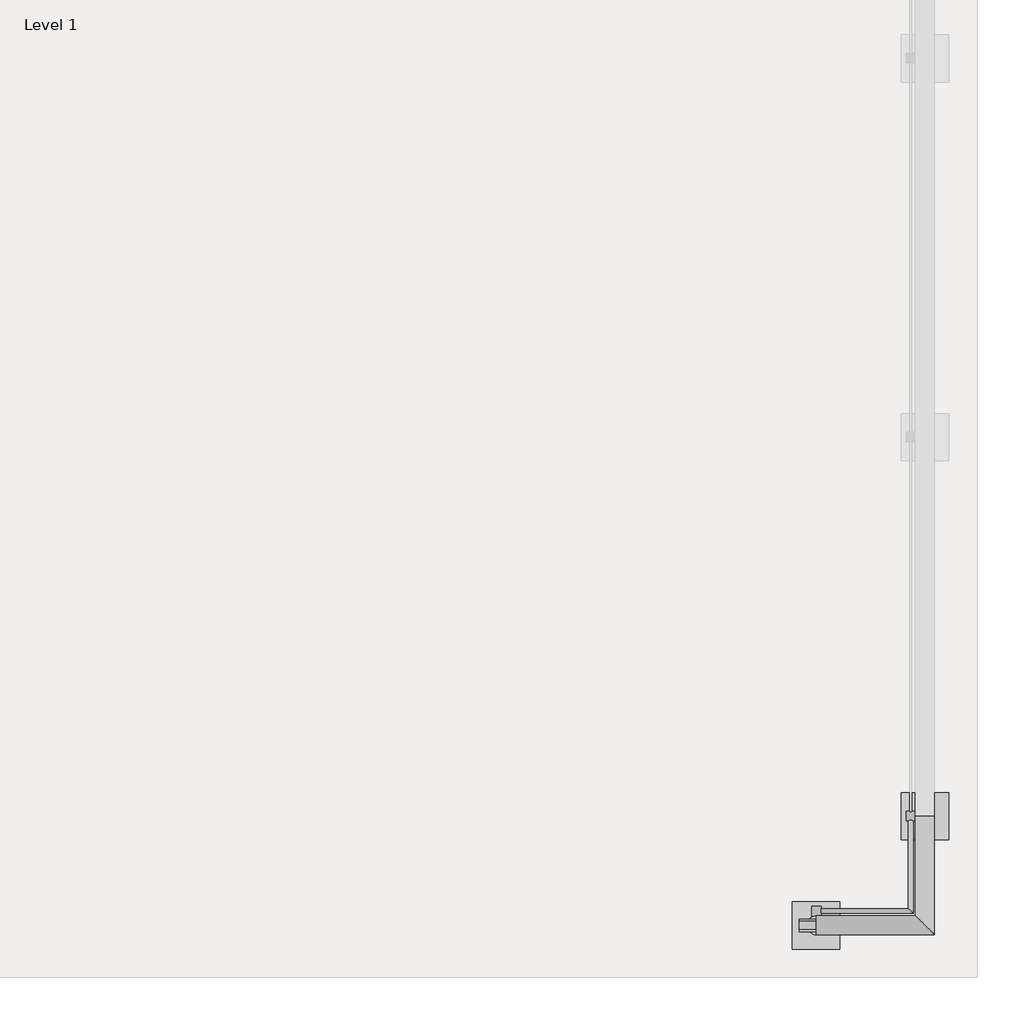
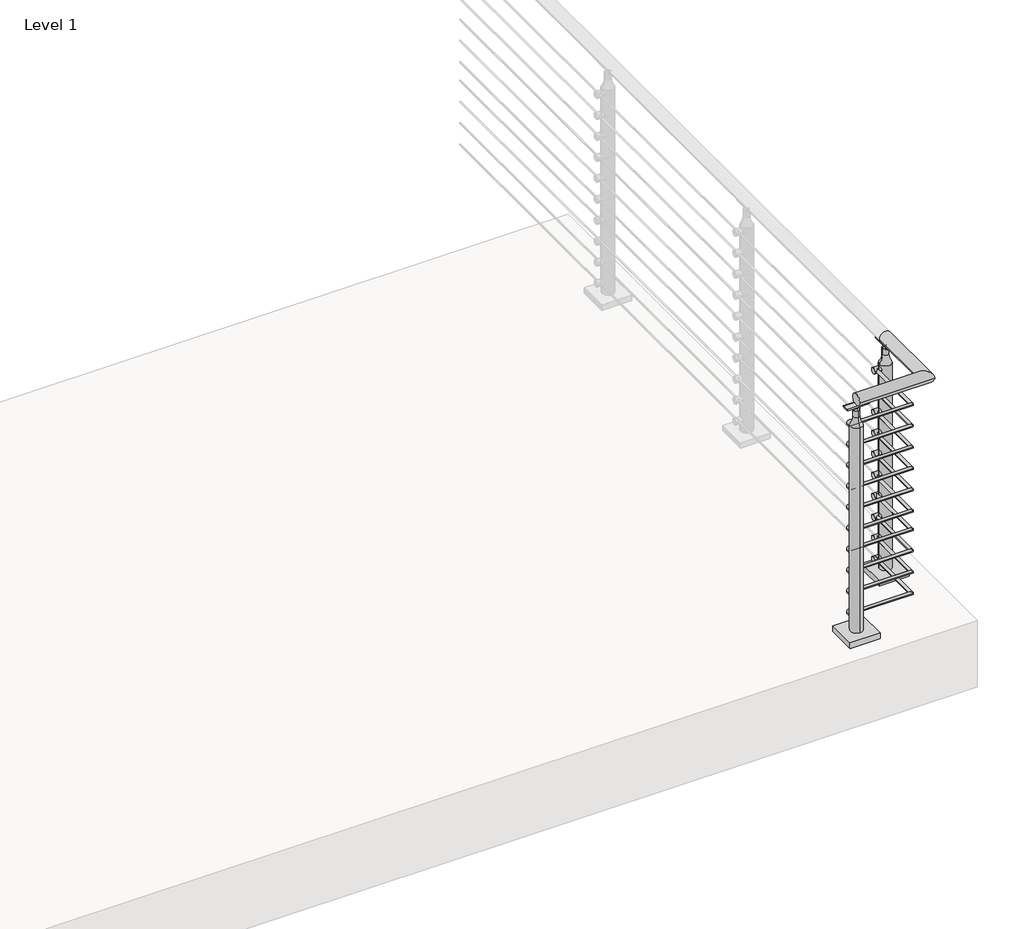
# One storey, part 4 of 21: 1 railing.
"""IFC4 building model written with IfcOpenShell, lengths in millimetres."""

from ifc_helpers import new_model, si_unit, point, frame, frame_2d, origin, origin_with_axes, place, context, project, spatial, polyline, circle_curve, ellipse_curve, trimmed, segment, composite_curve, outline, extrude, element, save
from ifc_brep_helpers import plane_surface, cylinder_surface, revolved_surface, advanced_brep

model = new_model("IFC4")

# Units and contexts
model_context = context("Model", 3, world=origin())
ifc_project = project(units=[si_unit("LENGTHUNIT", "METRE", prefix="MILLI")], contexts=[model_context])

# Site, building, storey
site = spatial("IfcSite", under=ifc_project)
building = spatial("IfcBuilding", under=site)
storey = spatial("IfcBuildingStorey", under=building, Name="Level 1", Elevation=0.0)

# Railing
placement = place(None, origin())
element("IfcRailing", 1, ObjectType="VIVA-CIRCA-Multiline-Cable-Floor Mount-Corner", at=placement, inside=storey, context=model_context, shape_type="SolidModel", body=[
    advanced_brep(
    [(19311.7855247, -73670.2943064, 1054.1), (19311.7855247, -73619.4943064, 1054.1), (19629.2855247, -73670.2943064, 1054.1), (19578.4855247, -73619.4943064, 1054.1), (19629.2855247, -73352.7943064, 1054.1), (19578.4855247, -73352.7943064, 1054.1)],
    [
        (0, 1, circle_curve(frame((19311.7855247, -73644.8943064, 1054.1), z_axis=(-1.0, 0.0, 0.0), x_axis=(0.0, 1.0, 0.0)), 25.4)),
        (1, 0, circle_curve(frame((19311.7855247, -73644.8943064, 1054.1), z_axis=(-1.0, 0.0, 0.0), x_axis=(0.0, 1.0, 0.0)), 25.4)),
        (0, 2),
        (2, 3, ellipse_curve(frame((19603.8855247, -73644.8943064, 1054.1), z_axis=(-0.7071067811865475, -0.7071067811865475, 0.0), x_axis=(-0.7071067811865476, 0.7071067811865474, 0.0)), 35.9210245, 25.4)),
        (3, 1),
        (3, 2, ellipse_curve(frame((19603.8855247, -73644.8943064, 1054.1), z_axis=(-0.7071067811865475, -0.7071067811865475, 0.0), x_axis=(-0.7071067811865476, 0.7071067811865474, 0.0)), 35.9210245, 25.4)),
        (4, 5, circle_curve(frame((19603.8855247, -73352.7943064, 1054.1), z_axis=(0.0, 1.0, 0.0), x_axis=(-1.0, 0.0, 0.0)), 25.4)),
        (5, 4, circle_curve(frame((19603.8855247, -73352.7943064, 1054.1), z_axis=(0.0, 1.0, 0.0), x_axis=(-1.0, 0.0, 0.0)), 25.4)),
        (2, 4),
        (5, 3),
    ],
    [
        plane_surface(frame((19311.7855247, -73644.8943064, 1079.5), z_axis=(-1.0, 0.0, 0.0), x_axis=(0.0, 1.0, 0.0))),
        cylinder_surface(frame((19311.7855247, -73644.8943064, 1054.1), z_axis=(-1.0, 0.0, 0.0), x_axis=(0.0, 1.0, 0.0)), 25.4),
        plane_surface(frame((19603.8855247, -73352.7943064, 1079.5), z_axis=(0.0, 1.0, 0.0), x_axis=(0.0, 0.0, 1.0))),
        cylinder_surface(frame((19603.8855247, -73644.8943064, 1054.1), z_axis=(0.0, -1.0, 0.0), x_axis=(-1.0, 0.0, 0.0)), 25.4),
    ],
    [
        (0, [[1, 2]]),
        (1, [[-1, 3, 4, 5]]),
        (1, [[-2, -5, 6, -3]]),
        (2, [[7, 8]]),
        (3, [[-4, 9, -8, 10]]),
        (3, [[-6, -10, -7, -9]]),
    ],
),
    advanced_brep(
    [(19311.7855247, -73600.4443064, 920.75), (19311.7855247, -73613.1443064, 920.75), (19559.4355247, -73600.4443064, 920.75), (19572.1355247, -73613.1443064, 920.75), (19559.4355247, -73352.7943064, 920.75), (19572.1355247, -73352.7943064, 920.75)],
    [
        (0, 1, circle_curve(frame((19311.7855247, -73606.7943064, 920.75), z_axis=(-1.0, 0.0, 0.0), x_axis=(0.0, -1.0, 0.0)), 6.35)),
        (1, 0, circle_curve(frame((19311.7855247, -73606.7943064, 920.75), z_axis=(-1.0, 0.0, 0.0), x_axis=(0.0, -1.0, 0.0)), 6.35)),
        (0, 2),
        (2, 3, ellipse_curve(frame((19565.7855247, -73606.7943064, 920.75), z_axis=(-0.7071067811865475, -0.7071067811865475, 0.0), x_axis=(-0.7071067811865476, 0.7071067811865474, 0.0)), 8.9802561, 6.35)),
        (3, 1),
        (3, 2, ellipse_curve(frame((19565.7855247, -73606.7943064, 920.75), z_axis=(-0.7071067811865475, -0.7071067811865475, 0.0), x_axis=(-0.7071067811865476, 0.7071067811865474, 0.0)), 8.9802561, 6.35)),
        (4, 5, circle_curve(frame((19565.7855247, -73352.7943064, 920.75), z_axis=(0.0, 1.0, 0.0), x_axis=(1.0, 0.0, 0.0)), 6.35)),
        (5, 4, circle_curve(frame((19565.7855247, -73352.7943064, 920.75), z_axis=(0.0, 1.0, 0.0), x_axis=(1.0, 0.0, 0.0)), 6.35)),
        (2, 4),
        (5, 3),
    ],
    [
        plane_surface(frame((19311.7855247, -73606.7943064, 927.1), z_axis=(-1.0, 0.0, 0.0), x_axis=(0.0, 1.0, 0.0))),
        cylinder_surface(frame((19311.7855247, -73606.7943064, 920.75), z_axis=(-1.0, 0.0, 0.0), x_axis=(0.0, -1.0, 0.0)), 6.35),
        plane_surface(frame((19565.7855247, -73352.7943064, 927.1), z_axis=(0.0, 1.0, 0.0), x_axis=(0.0, 0.0, 1.0))),
        cylinder_surface(frame((19565.7855247, -73606.7943064, 920.75), z_axis=(0.0, -1.0, 0.0), x_axis=(1.0, 0.0, 0.0)), 6.35),
    ],
    [
        (0, [[1, 2]]),
        (1, [[-1, 3, 4, 5]]),
        (1, [[-2, -5, 6, -3]]),
        (2, [[7, 8]]),
        (3, [[-4, 9, -8, 10]]),
        (3, [[-6, -10, -7, -9]]),
    ],
),
    advanced_brep(
    [(19311.7855247, -73600.4443064, 825.5), (19311.7855247, -73613.1443064, 825.5), (19559.4355247, -73600.4443064, 825.5), (19572.1355247, -73613.1443064, 825.5), (19559.4355247, -73352.7943064, 825.5), (19572.1355247, -73352.7943064, 825.5)],
    [
        (0, 1, circle_curve(frame((19311.7855247, -73606.7943064, 825.5), z_axis=(-1.0, 0.0, 0.0), x_axis=(0.0, -1.0, 0.0)), 6.35)),
        (1, 0, circle_curve(frame((19311.7855247, -73606.7943064, 825.5), z_axis=(-1.0, 0.0, 0.0), x_axis=(0.0, -1.0, 0.0)), 6.35)),
        (0, 2),
        (2, 3, ellipse_curve(frame((19565.7855247, -73606.7943064, 825.5), z_axis=(-0.7071067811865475, -0.7071067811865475, 0.0), x_axis=(-0.7071067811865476, 0.7071067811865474, 0.0)), 8.9802561, 6.35)),
        (3, 1),
        (3, 2, ellipse_curve(frame((19565.7855247, -73606.7943064, 825.5), z_axis=(-0.7071067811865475, -0.7071067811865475, 0.0), x_axis=(-0.7071067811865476, 0.7071067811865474, 0.0)), 8.9802561, 6.35)),
        (4, 5, circle_curve(frame((19565.7855247, -73352.7943064, 825.5), z_axis=(0.0, 1.0, 0.0), x_axis=(1.0, 0.0, 0.0)), 6.35)),
        (5, 4, circle_curve(frame((19565.7855247, -73352.7943064, 825.5), z_axis=(0.0, 1.0, 0.0), x_axis=(1.0, 0.0, 0.0)), 6.35)),
        (2, 4),
        (5, 3),
    ],
    [
        plane_surface(frame((19311.7855247, -73606.7943064, 831.85), z_axis=(-1.0, 0.0, 0.0), x_axis=(0.0, 1.0, 0.0))),
        cylinder_surface(frame((19311.7855247, -73606.7943064, 825.5), z_axis=(-1.0, 0.0, 0.0), x_axis=(0.0, -1.0, 0.0)), 6.35),
        plane_surface(frame((19565.7855247, -73352.7943064, 831.85), z_axis=(0.0, 1.0, 0.0), x_axis=(0.0, 0.0, 1.0))),
        cylinder_surface(frame((19565.7855247, -73606.7943064, 825.5), z_axis=(0.0, -1.0, 0.0), x_axis=(1.0, 0.0, 0.0)), 6.35),
    ],
    [
        (0, [[1, 2]]),
        (1, [[-1, 3, 4, 5]]),
        (1, [[-2, -5, 6, -3]]),
        (2, [[7, 8]]),
        (3, [[-4, 9, -8, 10]]),
        (3, [[-6, -10, -7, -9]]),
    ],
),
    advanced_brep(
    [(19311.7855247, -73600.4443064, 730.25), (19311.7855247, -73613.1443064, 730.25), (19559.4355247, -73600.4443064, 730.25), (19572.1355247, -73613.1443064, 730.25), (19559.4355247, -73352.7943064, 730.25), (19572.1355247, -73352.7943064, 730.25)],
    [
        (0, 1, circle_curve(frame((19311.7855247, -73606.7943064, 730.25), z_axis=(-1.0, 0.0, 0.0), x_axis=(0.0, -1.0, 0.0)), 6.35)),
        (1, 0, circle_curve(frame((19311.7855247, -73606.7943064, 730.25), z_axis=(-1.0, 0.0, 0.0), x_axis=(0.0, -1.0, 0.0)), 6.35)),
        (0, 2),
        (2, 3, ellipse_curve(frame((19565.7855247, -73606.7943064, 730.25), z_axis=(-0.7071067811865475, -0.7071067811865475, 0.0), x_axis=(-0.7071067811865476, 0.7071067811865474, 0.0)), 8.9802561, 6.35)),
        (3, 1),
        (3, 2, ellipse_curve(frame((19565.7855247, -73606.7943064, 730.25), z_axis=(-0.7071067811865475, -0.7071067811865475, 0.0), x_axis=(-0.7071067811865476, 0.7071067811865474, 0.0)), 8.9802561, 6.35)),
        (4, 5, circle_curve(frame((19565.7855247, -73352.7943064, 730.25), z_axis=(0.0, 1.0, 0.0), x_axis=(1.0, 0.0, 0.0)), 6.35)),
        (5, 4, circle_curve(frame((19565.7855247, -73352.7943064, 730.25), z_axis=(0.0, 1.0, 0.0), x_axis=(1.0, 0.0, 0.0)), 6.35)),
        (2, 4),
        (5, 3),
    ],
    [
        plane_surface(frame((19311.7855247, -73606.7943064, 736.6), z_axis=(-1.0, 0.0, 0.0), x_axis=(0.0, 1.0, 0.0))),
        cylinder_surface(frame((19311.7855247, -73606.7943064, 730.25), z_axis=(-1.0, 0.0, 0.0), x_axis=(0.0, -1.0, 0.0)), 6.35),
        plane_surface(frame((19565.7855247, -73352.7943064, 736.6), z_axis=(0.0, 1.0, 0.0), x_axis=(0.0, 0.0, 1.0))),
        cylinder_surface(frame((19565.7855247, -73606.7943064, 730.25), z_axis=(0.0, -1.0, 0.0), x_axis=(1.0, 0.0, 0.0)), 6.35),
    ],
    [
        (0, [[1, 2]]),
        (1, [[-1, 3, 4, 5]]),
        (1, [[-2, -5, 6, -3]]),
        (2, [[7, 8]]),
        (3, [[-4, 9, -8, 10]]),
        (3, [[-6, -10, -7, -9]]),
    ],
),
    advanced_brep(
    [(19311.7855247, -73600.4443064, 635.0), (19311.7855247, -73613.1443064, 635.0), (19559.4355247, -73600.4443064, 635.0), (19572.1355247, -73613.1443064, 635.0), (19559.4355247, -73352.7943064, 635.0), (19572.1355247, -73352.7943064, 635.0)],
    [
        (0, 1, circle_curve(frame((19311.7855247, -73606.7943064, 635.0), z_axis=(-1.0, 0.0, 0.0), x_axis=(0.0, -1.0, 0.0)), 6.35)),
        (1, 0, circle_curve(frame((19311.7855247, -73606.7943064, 635.0), z_axis=(-1.0, 0.0, 0.0), x_axis=(0.0, -1.0, 0.0)), 6.35)),
        (0, 2),
        (2, 3, ellipse_curve(frame((19565.7855247, -73606.7943064, 635.0), z_axis=(-0.7071067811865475, -0.7071067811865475, 0.0), x_axis=(-0.7071067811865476, 0.7071067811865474, 0.0)), 8.9802561, 6.35)),
        (3, 1),
        (3, 2, ellipse_curve(frame((19565.7855247, -73606.7943064, 635.0), z_axis=(-0.7071067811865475, -0.7071067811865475, 0.0), x_axis=(-0.7071067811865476, 0.7071067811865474, 0.0)), 8.9802561, 6.35)),
        (4, 5, circle_curve(frame((19565.7855247, -73352.7943064, 635.0), z_axis=(0.0, 1.0, 0.0), x_axis=(1.0, 0.0, 0.0)), 6.35)),
        (5, 4, circle_curve(frame((19565.7855247, -73352.7943064, 635.0), z_axis=(0.0, 1.0, 0.0), x_axis=(1.0, 0.0, 0.0)), 6.35)),
        (2, 4),
        (5, 3),
    ],
    [
        plane_surface(frame((19311.7855247, -73606.7943064, 641.35), z_axis=(-1.0, 0.0, 0.0), x_axis=(0.0, 1.0, 0.0))),
        cylinder_surface(frame((19311.7855247, -73606.7943064, 635.0), z_axis=(-1.0, 0.0, 0.0), x_axis=(0.0, -1.0, 0.0)), 6.35),
        plane_surface(frame((19565.7855247, -73352.7943064, 641.35), z_axis=(0.0, 1.0, 0.0), x_axis=(0.0, 0.0, 1.0))),
        cylinder_surface(frame((19565.7855247, -73606.7943064, 635.0), z_axis=(0.0, -1.0, 0.0), x_axis=(1.0, 0.0, 0.0)), 6.35),
    ],
    [
        (0, [[1, 2]]),
        (1, [[-1, 3, 4, 5]]),
        (1, [[-2, -5, 6, -3]]),
        (2, [[7, 8]]),
        (3, [[-4, 9, -8, 10]]),
        (3, [[-6, -10, -7, -9]]),
    ],
),
    advanced_brep(
    [(19311.7855247, -73600.4443064, 539.75), (19311.7855247, -73613.1443064, 539.75), (19559.4355247, -73600.4443064, 539.75), (19572.1355247, -73613.1443064, 539.75), (19559.4355247, -73352.7943064, 539.75), (19572.1355247, -73352.7943064, 539.75)],
    [
        (0, 1, circle_curve(frame((19311.7855247, -73606.7943064, 539.75), z_axis=(-1.0, 0.0, 0.0), x_axis=(0.0, -1.0, 0.0)), 6.35)),
        (1, 0, circle_curve(frame((19311.7855247, -73606.7943064, 539.75), z_axis=(-1.0, 0.0, 0.0), x_axis=(0.0, -1.0, 0.0)), 6.35)),
        (0, 2),
        (2, 3, ellipse_curve(frame((19565.7855247, -73606.7943064, 539.75), z_axis=(-0.7071067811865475, -0.7071067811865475, 0.0), x_axis=(-0.7071067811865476, 0.7071067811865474, 0.0)), 8.9802561, 6.35)),
        (3, 1),
        (3, 2, ellipse_curve(frame((19565.7855247, -73606.7943064, 539.75), z_axis=(-0.7071067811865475, -0.7071067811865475, 0.0), x_axis=(-0.7071067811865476, 0.7071067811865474, 0.0)), 8.9802561, 6.35)),
        (4, 5, circle_curve(frame((19565.7855247, -73352.7943064, 539.75), z_axis=(0.0, 1.0, 0.0), x_axis=(1.0, 0.0, 0.0)), 6.35)),
        (5, 4, circle_curve(frame((19565.7855247, -73352.7943064, 539.75), z_axis=(0.0, 1.0, 0.0), x_axis=(1.0, 0.0, 0.0)), 6.35)),
        (2, 4),
        (5, 3),
    ],
    [
        plane_surface(frame((19311.7855247, -73606.7943064, 546.1), z_axis=(-1.0, 0.0, 0.0), x_axis=(0.0, 1.0, 0.0))),
        cylinder_surface(frame((19311.7855247, -73606.7943064, 539.75), z_axis=(-1.0, 0.0, 0.0), x_axis=(0.0, -1.0, 0.0)), 6.35),
        plane_surface(frame((19565.7855247, -73352.7943064, 546.1), z_axis=(0.0, 1.0, 0.0), x_axis=(0.0, 0.0, 1.0))),
        cylinder_surface(frame((19565.7855247, -73606.7943064, 539.75), z_axis=(0.0, -1.0, 0.0), x_axis=(1.0, 0.0, 0.0)), 6.35),
    ],
    [
        (0, [[1, 2]]),
        (1, [[-1, 3, 4, 5]]),
        (1, [[-2, -5, 6, -3]]),
        (2, [[7, 8]]),
        (3, [[-4, 9, -8, 10]]),
        (3, [[-6, -10, -7, -9]]),
    ],
),
    advanced_brep(
    [(19311.7855247, -73600.4443064, 444.5), (19311.7855247, -73613.1443064, 444.5), (19559.4355247, -73600.4443064, 444.5), (19572.1355247, -73613.1443064, 444.5), (19559.4355247, -73352.7943064, 444.5), (19572.1355247, -73352.7943064, 444.5)],
    [
        (0, 1, circle_curve(frame((19311.7855247, -73606.7943064, 444.5), z_axis=(-1.0, 0.0, 0.0), x_axis=(0.0, -1.0, 0.0)), 6.35)),
        (1, 0, circle_curve(frame((19311.7855247, -73606.7943064, 444.5), z_axis=(-1.0, 0.0, 0.0), x_axis=(0.0, -1.0, 0.0)), 6.35)),
        (0, 2),
        (2, 3, ellipse_curve(frame((19565.7855247, -73606.7943064, 444.5), z_axis=(-0.7071067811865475, -0.7071067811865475, 0.0), x_axis=(-0.7071067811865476, 0.7071067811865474, 0.0)), 8.9802561, 6.35)),
        (3, 1),
        (3, 2, ellipse_curve(frame((19565.7855247, -73606.7943064, 444.5), z_axis=(-0.7071067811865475, -0.7071067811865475, 0.0), x_axis=(-0.7071067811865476, 0.7071067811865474, 0.0)), 8.9802561, 6.35)),
        (4, 5, circle_curve(frame((19565.7855247, -73352.7943064, 444.5), z_axis=(0.0, 1.0, 0.0), x_axis=(1.0, 0.0, 0.0)), 6.35)),
        (5, 4, circle_curve(frame((19565.7855247, -73352.7943064, 444.5), z_axis=(0.0, 1.0, 0.0), x_axis=(1.0, 0.0, 0.0)), 6.35)),
        (2, 4),
        (5, 3),
    ],
    [
        plane_surface(frame((19311.7855247, -73606.7943064, 450.85), z_axis=(-1.0, 0.0, 0.0), x_axis=(0.0, 1.0, 0.0))),
        cylinder_surface(frame((19311.7855247, -73606.7943064, 444.5), z_axis=(-1.0, 0.0, 0.0), x_axis=(0.0, -1.0, 0.0)), 6.35),
        plane_surface(frame((19565.7855247, -73352.7943064, 450.85), z_axis=(0.0, 1.0, 0.0), x_axis=(0.0, 0.0, 1.0))),
        cylinder_surface(frame((19565.7855247, -73606.7943064, 444.5), z_axis=(0.0, -1.0, 0.0), x_axis=(1.0, 0.0, 0.0)), 6.35),
    ],
    [
        (0, [[1, 2]]),
        (1, [[-1, 3, 4, 5]]),
        (1, [[-2, -5, 6, -3]]),
        (2, [[7, 8]]),
        (3, [[-4, 9, -8, 10]]),
        (3, [[-6, -10, -7, -9]]),
    ],
),
    advanced_brep(
    [(19311.7855247, -73600.4443064, 361.95), (19311.7855247, -73613.1443064, 361.95), (19559.4355247, -73600.4443064, 361.95), (19572.1355247, -73613.1443064, 361.95), (19559.4355247, -73352.7943064, 361.95), (19572.1355247, -73352.7943064, 361.95)],
    [
        (0, 1, circle_curve(frame((19311.7855247, -73606.7943064, 361.95), z_axis=(-1.0, 0.0, 0.0), x_axis=(0.0, -1.0, 0.0)), 6.35)),
        (1, 0, circle_curve(frame((19311.7855247, -73606.7943064, 361.95), z_axis=(-1.0, 0.0, 0.0), x_axis=(0.0, -1.0, 0.0)), 6.35)),
        (0, 2),
        (2, 3, ellipse_curve(frame((19565.7855247, -73606.7943064, 361.95), z_axis=(-0.7071067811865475, -0.7071067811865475, 0.0), x_axis=(-0.7071067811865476, 0.7071067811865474, 0.0)), 8.9802561, 6.35)),
        (3, 1),
        (3, 2, ellipse_curve(frame((19565.7855247, -73606.7943064, 361.95), z_axis=(-0.7071067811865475, -0.7071067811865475, 0.0), x_axis=(-0.7071067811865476, 0.7071067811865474, 0.0)), 8.9802561, 6.35)),
        (4, 5, circle_curve(frame((19565.7855247, -73352.7943064, 361.95), z_axis=(0.0, 1.0, 0.0), x_axis=(1.0, 0.0, 0.0)), 6.35)),
        (5, 4, circle_curve(frame((19565.7855247, -73352.7943064, 361.95), z_axis=(0.0, 1.0, 0.0), x_axis=(1.0, 0.0, 0.0)), 6.35)),
        (2, 4),
        (5, 3),
    ],
    [
        plane_surface(frame((19311.7855247, -73606.7943064, 368.3), z_axis=(-1.0, 0.0, 0.0), x_axis=(0.0, 1.0, 0.0))),
        cylinder_surface(frame((19311.7855247, -73606.7943064, 361.95), z_axis=(-1.0, 0.0, 0.0), x_axis=(0.0, -1.0, 0.0)), 6.35),
        plane_surface(frame((19565.7855247, -73352.7943064, 368.3), z_axis=(0.0, 1.0, 0.0), x_axis=(0.0, 0.0, 1.0))),
        cylinder_surface(frame((19565.7855247, -73606.7943064, 361.95), z_axis=(0.0, -1.0, 0.0), x_axis=(1.0, 0.0, 0.0)), 6.35),
    ],
    [
        (0, [[1, 2]]),
        (1, [[-1, 3, 4, 5]]),
        (1, [[-2, -5, 6, -3]]),
        (2, [[7, 8]]),
        (3, [[-4, 9, -8, 10]]),
        (3, [[-6, -10, -7, -9]]),
    ],
),
    advanced_brep(
    [(19311.7855247, -73600.4443064, 266.7), (19311.7855247, -73613.1443064, 266.7), (19559.4355247, -73600.4443064, 266.7), (19572.1355247, -73613.1443064, 266.7), (19559.4355247, -73352.7943064, 266.7), (19572.1355247, -73352.7943064, 266.7)],
    [
        (0, 1, circle_curve(frame((19311.7855247, -73606.7943064, 266.7), z_axis=(-1.0, 0.0, 0.0), x_axis=(0.0, -1.0, 0.0)), 6.35)),
        (1, 0, circle_curve(frame((19311.7855247, -73606.7943064, 266.7), z_axis=(-1.0, 0.0, 0.0), x_axis=(0.0, -1.0, 0.0)), 6.35)),
        (0, 2),
        (2, 3, ellipse_curve(frame((19565.7855247, -73606.7943064, 266.7), z_axis=(-0.7071067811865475, -0.7071067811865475, 0.0), x_axis=(-0.7071067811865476, 0.7071067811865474, 0.0)), 8.9802561, 6.35)),
        (3, 1),
        (3, 2, ellipse_curve(frame((19565.7855247, -73606.7943064, 266.7), z_axis=(-0.7071067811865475, -0.7071067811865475, 0.0), x_axis=(-0.7071067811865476, 0.7071067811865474, 0.0)), 8.9802561, 6.35)),
        (4, 5, circle_curve(frame((19565.7855247, -73352.7943064, 266.7), z_axis=(0.0, 1.0, 0.0), x_axis=(1.0, 0.0, 0.0)), 6.35)),
        (5, 4, circle_curve(frame((19565.7855247, -73352.7943064, 266.7), z_axis=(0.0, 1.0, 0.0), x_axis=(1.0, 0.0, 0.0)), 6.35)),
        (2, 4),
        (5, 3),
    ],
    [
        plane_surface(frame((19311.7855247, -73606.7943064, 273.05), z_axis=(-1.0, 0.0, 0.0), x_axis=(0.0, 1.0, 0.0))),
        cylinder_surface(frame((19311.7855247, -73606.7943064, 266.7), z_axis=(-1.0, 0.0, 0.0), x_axis=(0.0, -1.0, 0.0)), 6.35),
        plane_surface(frame((19565.7855247, -73352.7943064, 273.05), z_axis=(0.0, 1.0, 0.0), x_axis=(0.0, 0.0, 1.0))),
        cylinder_surface(frame((19565.7855247, -73606.7943064, 266.7), z_axis=(0.0, -1.0, 0.0), x_axis=(1.0, 0.0, 0.0)), 6.35),
    ],
    [
        (0, [[1, 2]]),
        (1, [[-1, 3, 4, 5]]),
        (1, [[-2, -5, 6, -3]]),
        (2, [[7, 8]]),
        (3, [[-4, 9, -8, 10]]),
        (3, [[-6, -10, -7, -9]]),
    ],
),
    advanced_brep(
    [(19311.7855247, -73600.4443064, 171.45), (19311.7855247, -73613.1443064, 171.45), (19559.4355247, -73600.4443064, 171.45), (19572.1355247, -73613.1443064, 171.45), (19559.4355247, -73352.7943064, 171.45), (19572.1355247, -73352.7943064, 171.45)],
    [
        (0, 1, circle_curve(frame((19311.7855247, -73606.7943064, 171.45), z_axis=(-1.0, 0.0, 0.0), x_axis=(0.0, -1.0, 0.0)), 6.35)),
        (1, 0, circle_curve(frame((19311.7855247, -73606.7943064, 171.45), z_axis=(-1.0, 0.0, 0.0), x_axis=(0.0, -1.0, 0.0)), 6.35)),
        (0, 2),
        (2, 3, ellipse_curve(frame((19565.7855247, -73606.7943064, 171.45), z_axis=(-0.7071067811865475, -0.7071067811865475, 0.0), x_axis=(-0.7071067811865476, 0.7071067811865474, 0.0)), 8.9802561, 6.35)),
        (3, 1),
        (3, 2, ellipse_curve(frame((19565.7855247, -73606.7943064, 171.45), z_axis=(-0.7071067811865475, -0.7071067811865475, 0.0), x_axis=(-0.7071067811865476, 0.7071067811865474, 0.0)), 8.9802561, 6.35)),
        (4, 5, circle_curve(frame((19565.7855247, -73352.7943064, 171.45), z_axis=(0.0, 1.0, 0.0), x_axis=(1.0, 0.0, 0.0)), 6.35)),
        (5, 4, circle_curve(frame((19565.7855247, -73352.7943064, 171.45), z_axis=(0.0, 1.0, 0.0), x_axis=(1.0, 0.0, 0.0)), 6.35)),
        (2, 4),
        (5, 3),
    ],
    [
        plane_surface(frame((19311.7855247, -73606.7943064, 177.8), z_axis=(-1.0, 0.0, 0.0), x_axis=(0.0, 1.0, 0.0))),
        cylinder_surface(frame((19311.7855247, -73606.7943064, 171.45), z_axis=(-1.0, 0.0, 0.0), x_axis=(0.0, -1.0, 0.0)), 6.35),
        plane_surface(frame((19565.7855247, -73352.7943064, 177.8), z_axis=(0.0, 1.0, 0.0), x_axis=(0.0, 0.0, 1.0))),
        cylinder_surface(frame((19565.7855247, -73606.7943064, 171.45), z_axis=(0.0, -1.0, 0.0), x_axis=(1.0, 0.0, 0.0)), 6.35),
    ],
    [
        (0, [[1, 2]]),
        (1, [[-1, 3, 4, 5]]),
        (1, [[-2, -5, 6, -3]]),
        (2, [[7, 8]]),
        (3, [[-4, 9, -8, 10]]),
        (3, [[-6, -10, -7, -9]]),
    ],
),
    advanced_brep(
    [(19311.7855247, -73600.4443064, 76.2), (19311.7855247, -73613.1443064, 76.2), (19559.4355247, -73600.4443064, 76.2), (19572.1355247, -73613.1443064, 76.2), (19559.4355247, -73352.7943064, 76.2), (19572.1355247, -73352.7943064, 76.2)],
    [
        (0, 1, circle_curve(frame((19311.7855247, -73606.7943064, 76.2), z_axis=(-1.0, 0.0, 0.0), x_axis=(0.0, -1.0, 0.0)), 6.35)),
        (1, 0, circle_curve(frame((19311.7855247, -73606.7943064, 76.2), z_axis=(-1.0, 0.0, 0.0), x_axis=(0.0, -1.0, 0.0)), 6.35)),
        (0, 2),
        (2, 3, ellipse_curve(frame((19565.7855247, -73606.7943064, 76.2), z_axis=(-0.7071067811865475, -0.7071067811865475, 0.0), x_axis=(-0.7071067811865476, 0.7071067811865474, 0.0)), 8.9802561, 6.35)),
        (3, 1),
        (3, 2, ellipse_curve(frame((19565.7855247, -73606.7943064, 76.2), z_axis=(-0.7071067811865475, -0.7071067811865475, 0.0), x_axis=(-0.7071067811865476, 0.7071067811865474, 0.0)), 8.9802561, 6.35)),
        (4, 5, circle_curve(frame((19565.7855247, -73352.7943064, 76.2), z_axis=(0.0, 1.0, 0.0), x_axis=(1.0, 0.0, 0.0)), 6.35)),
        (5, 4, circle_curve(frame((19565.7855247, -73352.7943064, 76.2), z_axis=(0.0, 1.0, 0.0), x_axis=(1.0, 0.0, 0.0)), 6.35)),
        (2, 4),
        (5, 3),
    ],
    [
        plane_surface(frame((19311.7855247, -73606.7943064, 82.55), z_axis=(-1.0, 0.0, 0.0), x_axis=(0.0, 1.0, 0.0))),
        cylinder_surface(frame((19311.7855247, -73606.7943064, 76.2), z_axis=(-1.0, 0.0, 0.0), x_axis=(0.0, -1.0, 0.0)), 6.35),
        plane_surface(frame((19565.7855247, -73352.7943064, 82.55), z_axis=(0.0, 1.0, 0.0), x_axis=(0.0, 0.0, 1.0))),
        cylinder_surface(frame((19565.7855247, -73606.7943064, 76.2), z_axis=(0.0, -1.0, 0.0), x_axis=(1.0, 0.0, 0.0)), 6.35),
    ],
    [
        (0, [[1, 2]]),
        (1, [[-1, 3, 4, 5]]),
        (1, [[-2, -5, 6, -3]]),
        (2, [[7, 8]]),
        (3, [[-4, 9, -8, 10]]),
        (3, [[-6, -10, -7, -9]]),
    ],
),
    extrude(outline(composite_curve([segment(trimmed(circle_curve(frame_2d((-73352.0005564, 76.2)), 12.666458), [point((-73339.3340985, 76.2))], [point((-73364.6670144, 76.2))], False, "CARTESIAN"), True, "CONTINUOUS"), segment(trimmed(circle_curve(frame_2d((-73352.0005564, 76.2)), 12.666458), [point((-73364.6670144, 76.2))], [point((-73339.3340985, 76.2))], False, "CARTESIAN"), True, "CONTINUOUS")], self_intersect=False)), frame((19553.0855247, 0.0, 0.0), z_axis=(1.0, 0.0, 0.0), x_axis=(0.0, 1.0, 0.0)), (0.0, 0.0, 1.0), 50.8),
    extrude(outline(composite_curve([segment(trimmed(circle_curve(frame_2d((-73352.0005564, 170.0388889)), 12.666458), [point((-73339.3340985, 170.0388889))], [point((-73364.6670144, 170.0388889))], False, "CARTESIAN"), True, "CONTINUOUS"), segment(trimmed(circle_curve(frame_2d((-73352.0005564, 170.0388889)), 12.666458), [point((-73364.6670144, 170.0388889))], [point((-73339.3340985, 170.0388889))], False, "CARTESIAN"), True, "CONTINUOUS")], self_intersect=False)), frame((19553.0855247, 0.0, 0.0), z_axis=(1.0, 0.0, 0.0), x_axis=(0.0, 1.0, 0.0)), (0.0, 0.0, 1.0), 50.8),
    extrude(outline(composite_curve([segment(trimmed(circle_curve(frame_2d((-73352.0005564, 263.8777778)), 12.666458), [point((-73339.3340985, 263.8777778))], [point((-73364.6670144, 263.8777778))], False, "CARTESIAN"), True, "CONTINUOUS"), segment(trimmed(circle_curve(frame_2d((-73352.0005564, 263.8777778)), 12.666458), [point((-73364.6670144, 263.8777778))], [point((-73339.3340985, 263.8777778))], False, "CARTESIAN"), True, "CONTINUOUS")], self_intersect=False)), frame((19553.0855247, 0.0, 0.0), z_axis=(1.0, 0.0, 0.0), x_axis=(0.0, 1.0, 0.0)), (0.0, 0.0, 1.0), 50.8),
    extrude(outline(composite_curve([segment(trimmed(circle_curve(frame_2d((-73352.0005564, 357.7166667)), 12.666458), [point((-73339.3340985, 357.7166667))], [point((-73364.6670144, 357.7166667))], False, "CARTESIAN"), True, "CONTINUOUS"), segment(trimmed(circle_curve(frame_2d((-73352.0005564, 357.7166667)), 12.666458), [point((-73364.6670144, 357.7166667))], [point((-73339.3340985, 357.7166667))], False, "CARTESIAN"), True, "CONTINUOUS")], self_intersect=False)), frame((19553.0855247, 0.0, 0.0), z_axis=(1.0, 0.0, 0.0), x_axis=(0.0, 1.0, 0.0)), (0.0, 0.0, 1.0), 50.8),
    extrude(outline(composite_curve([segment(trimmed(circle_curve(frame_2d((-73352.0005564, 451.5555556)), 12.666458), [point((-73339.3340985, 451.5555556))], [point((-73364.6670144, 451.5555556))], False, "CARTESIAN"), True, "CONTINUOUS"), segment(trimmed(circle_curve(frame_2d((-73352.0005564, 451.5555556)), 12.666458), [point((-73364.6670144, 451.5555556))], [point((-73339.3340985, 451.5555556))], False, "CARTESIAN"), True, "CONTINUOUS")], self_intersect=False)), frame((19553.0855247, 0.0, 0.0), z_axis=(1.0, 0.0, 0.0), x_axis=(0.0, 1.0, 0.0)), (0.0, 0.0, 1.0), 50.8),
    extrude(outline(composite_curve([segment(trimmed(circle_curve(frame_2d((-73352.0005564, 545.3944444)), 12.666458), [point((-73339.3340985, 545.3944444))], [point((-73364.6670144, 545.3944444))], False, "CARTESIAN"), True, "CONTINUOUS"), segment(trimmed(circle_curve(frame_2d((-73352.0005564, 545.3944444)), 12.666458), [point((-73364.6670144, 545.3944444))], [point((-73339.3340985, 545.3944444))], False, "CARTESIAN"), True, "CONTINUOUS")], self_intersect=False)), frame((19553.0855247, 0.0, 0.0), z_axis=(1.0, 0.0, 0.0), x_axis=(0.0, 1.0, 0.0)), (0.0, 0.0, 1.0), 50.8),
    extrude(outline(composite_curve([segment(trimmed(circle_curve(frame_2d((-73352.0005564, 639.2333333)), 12.666458), [point((-73339.3340985, 639.2333333))], [point((-73364.6670144, 639.2333333))], False, "CARTESIAN"), True, "CONTINUOUS"), segment(trimmed(circle_curve(frame_2d((-73352.0005564, 639.2333333)), 12.666458), [point((-73364.6670144, 639.2333333))], [point((-73339.3340985, 639.2333333))], False, "CARTESIAN"), True, "CONTINUOUS")], self_intersect=False)), frame((19553.0855247, 0.0, 0.0), z_axis=(1.0, 0.0, 0.0), x_axis=(0.0, 1.0, 0.0)), (0.0, 0.0, 1.0), 50.8),
    extrude(outline(composite_curve([segment(trimmed(circle_curve(frame_2d((-73352.0005564, 733.0722222)), 12.666458), [point((-73339.3340985, 733.0722222))], [point((-73364.6670144, 733.0722222))], False, "CARTESIAN"), True, "CONTINUOUS"), segment(trimmed(circle_curve(frame_2d((-73352.0005564, 733.0722222)), 12.666458), [point((-73364.6670144, 733.0722222))], [point((-73339.3340985, 733.0722222))], False, "CARTESIAN"), True, "CONTINUOUS")], self_intersect=False)), frame((19553.0855247, 0.0, 0.0), z_axis=(1.0, 0.0, 0.0), x_axis=(0.0, 1.0, 0.0)), (0.0, 0.0, 1.0), 50.8),
    extrude(outline(composite_curve([segment(trimmed(circle_curve(frame_2d((-73352.0005564, 920.75)), 12.666458), [point((-73339.3340985, 920.75))], [point((-73364.6670144, 920.75))], False, "CARTESIAN"), True, "CONTINUOUS"), segment(trimmed(circle_curve(frame_2d((-73352.0005564, 920.75)), 12.666458), [point((-73364.6670144, 920.75))], [point((-73339.3340985, 920.75))], False, "CARTESIAN"), True, "CONTINUOUS")], self_intersect=False)), frame((19553.0855247, 0.0, 0.0), z_axis=(1.0, 0.0, 0.0), x_axis=(0.0, 1.0, 0.0)), (0.0, 0.0, 1.0), 50.8),
    extrude(outline(composite_curve([segment(trimmed(circle_curve(frame_2d((-73352.0005564, 826.9111111)), 12.666458), [point((-73339.3340985, 826.9111111))], [point((-73364.6670144, 826.9111111))], False, "CARTESIAN"), True, "CONTINUOUS"), segment(trimmed(circle_curve(frame_2d((-73352.0005564, 826.9111111)), 12.666458), [point((-73364.6670144, 826.9111111))], [point((-73339.3340985, 826.9111111))], False, "CARTESIAN"), True, "CONTINUOUS")], self_intersect=False)), frame((19553.0855247, 0.0, 0.0), z_axis=(1.0, 0.0, 0.0), x_axis=(0.0, 1.0, 0.0)), (0.0, 0.0, 1.0), 50.8),
    extrude(outline(composite_curve([segment(trimmed(circle_curve(frame_2d((1055.4254922, 19603.7887963)), 25.4345159), [point((1033.3106679, 19616.3525992))], [point((1033.2157471, 19591.3935626))], True, "CARTESIAN"), True, "CONTINUOUS"), segment(trimmed(circle_curve(frame_2d((1030.7132623, 19590.1489094)), 2.7949225), [point((1033.2157471, 19591.3935626))], [point((1028.3406769, 19588.6716044))], False, "CARTESIAN"), True, "CONTINUOUS"), segment(trimmed(circle_curve(frame_2d((1056.1881188, 19603.9222594)), 31.75), [point((1028.3406769, 19588.6716044))], [point((1028.9214354, 19620.1884966))], False, "CARTESIAN"), True, "CONTINUOUS"), segment(trimmed(circle_curve(frame_2d((1030.7923545, 19617.9001569)), 2.9558141), [point((1028.9214354, 19620.1884966))], [point((1033.3106679, 19616.3525992))], False, "CARTESIAN"), True, "CONTINUOUS")], self_intersect=False)), frame((0.0, -73397.6348314, 0.0), z_axis=(0.0, 1.0, 0.0), x_axis=(0.0, 0.0, 1.0)), (0.0, 0.0, 1.0), 90.4748),
    extrude(outline(composite_curve([segment(trimmed(circle_curve(frame_2d((-73325.3295165, 1010.282776)), 14.3679149), [point((-73325.3295165, 1024.6506908))], [point((-73339.6974314, 1010.282776))], True, "CARTESIAN"), True, "CONTINUOUS"), segment(trimmed(circle_curve(frame_2d((-73352.3974314, 1010.282776)), 12.7), [point((-73339.6974314, 1010.282776))], [point((-73365.0974314, 1010.282776))], False, "CARTESIAN"), True, "CONTINUOUS"), segment(trimmed(circle_curve(frame_2d((-73379.4653463, 1010.282776)), 14.3679149), [point((-73365.0974314, 1010.282776))], [point((-73379.4653463, 1024.6506908))], True, "CARTESIAN"), True, "CONTINUOUS"), segment(polyline([(-73379.4653463, 1024.6506908), (-73325.3295165, 1024.6506908)]), True, "CONTINUOUS")], self_intersect=False)), frame((19601.3455247, 0.0, 0.0), z_axis=(1.0, 0.0, 0.0), x_axis=(0.0, 1.0, 0.0)), (0.0, 0.0, 1.0), 5.08),
    extrude(outline(polyline([(19667.3855247, -73415.8974314), (19540.3855247, -73415.8974314), (19540.3855247, -73288.8974314), (19667.3855247, -73288.8974314), (19667.3855247, -73415.8974314)])), origin_with_axes(), (0.0, 0.0, 1.0), 25.4),
    advanced_brep(
    [(19629.2849225, -73352.3974314, 941.1347854), (19578.4861269, -73352.3974314, 941.1347854), (19578.4861269, -73352.3974314, 25.4), (19629.2849225, -73352.3974314, 25.4), (19616.6234932, -73352.3974314, 979.3486202), (19591.1475562, -73352.3974314, 979.3486202), (19616.6234932, -73352.3974314, 1008.5779599), (19591.1475562, -73352.3974314, 1008.5779599), (19603.8855247, -73352.3974314, 1015.238668), (19603.8855247, -73352.3974314, 25.4)],
    [
        (0, 1, circle_curve(frame((19603.8855247, -73352.3974314, 941.1347854), z_axis=(0.0, 0.0, -1.0), x_axis=(-1.0, 0.0, 0.0)), 25.3993978)),
        (1, 2),
        (2, 3, circle_curve(frame((19603.8855247, -73352.3974314, 25.4), z_axis=(0.0, 0.0, 1.0), x_axis=(-1.0, 0.0, 0.0)), 25.3993978)),
        (3, 0),
        (1, 0, circle_curve(frame((19603.8855247, -73352.3974314, 941.1347854), z_axis=(0.0, 0.0, -1.0), x_axis=(-1.0, 0.0, 0.0)), 25.3993978)),
        (3, 2, circle_curve(frame((19603.8855247, -73352.3974314, 25.4), z_axis=(0.0, 0.0, 1.0), x_axis=(-1.0, 0.0, 0.0)), 25.3993978)),
        (4, 5, circle_curve(frame((19603.8855247, -73352.3974314, 979.3486202), z_axis=(0.0, 0.0, -1.0), x_axis=(-1.0, 0.0, 0.0)), 12.7379685)),
        (5, 1, circle_curve(frame((19527.1496879, -73352.3974314, 979.3486202), z_axis=(0.0, 1.0, 0.0), x_axis=(-1.0, 0.0, 0.0)), 63.9978683)),
        (0, 4, circle_curve(frame((19680.6213615, -73352.3974314, 979.3486202), z_axis=(0.0, 1.0, 0.0), x_axis=(1.0, 0.0, 0.0)), 63.9978683)),
        (5, 4, circle_curve(frame((19603.8855247, -73352.3974314, 979.3486202), z_axis=(0.0, 0.0, -1.0), x_axis=(-1.0, 0.0, 0.0)), 12.7379685)),
        (6, 7, circle_curve(frame((19603.8855247, -73352.3974314, 1008.5779599), z_axis=(0.0, 0.0, -1.0), x_axis=(-1.0, 0.0, 0.0)), 12.7379685)),
        (7, 5),
        (4, 6),
        (7, 6, circle_curve(frame((19603.8855247, -73352.3974314, 1008.5779599), z_axis=(0.0, 0.0, -1.0), x_axis=(-1.0, 0.0, 0.0)), 12.7379685)),
        (8, 7, circle_curve(frame((19603.8855247, -73352.3974314, 999.7282394), z_axis=(0.0, -1.0, 0.0), x_axis=(-1.0, 0.0, 0.0)), 15.5104286)),
        (6, 8, circle_curve(frame((19603.8855247, -73352.3974314, 999.7282394), z_axis=(0.0, -1.0, 0.0), x_axis=(1.0, 0.0, 0.0)), 15.5104286)),
        (2, 9),
        (9, 3),
    ],
    [
        cylinder_surface(frame((19603.8855247, -73352.3974314, 1104.9), z_axis=(0.0, 0.0, 1.0), x_axis=(-1.0, 0.0, 0.0)), 25.3993978),
        revolved_surface(trimmed(ellipse_curve(frame((19527.1496879, -73352.3974314, 979.3486202), z_axis=(0.0, -1.0, 0.0), x_axis=(-1.0, 0.0, 0.0)), 63.9978683, 63.9978683), [point((19578.4861269, -73352.3974314, 941.1347854))], [point((19591.1475562, -73352.3974314, 979.3486202))], True, "CARTESIAN"), (19603.8855247, -73352.3974314, 1104.9), (0.0, 0.0, 1.0)),
        cylinder_surface(frame((19603.8855247, -73352.3974314, 1104.9), z_axis=(0.0, 0.0, 1.0), x_axis=(-1.0, 0.0, 0.0)), 12.7379685),
        revolved_surface(trimmed(ellipse_curve(frame((19603.8855247, -73352.3974314, 999.7282394), z_axis=(0.0, 1.0, 0.0), x_axis=(-1.0, 0.0, 0.0)), 15.5104286, 15.5104286), [point((19591.1475562, -73352.3974314, 1008.5779599))], [point((19603.8855247, -73352.3974314, 1015.238668))], True, "CARTESIAN"), (19603.8855247, -73352.3974314, 1104.9), (0.0, 0.0, 1.0)),
        plane_surface(frame((19603.8855247, -73352.3974314, 25.4), z_axis=(0.0, 0.0, -1.0), x_axis=(-1.0, 0.0, 0.0))),
    ],
    [
        (0, [[1, 2, 3, 4]]),
        (0, [[5, -4, 6, -2]]),
        (1, [[7, 8, -1, 9]]),
        (1, [[10, -9, -5, -8]]),
        (2, [[11, 12, -7, 13]]),
        (2, [[14, -13, -10, -12]]),
        (3, [[15, -11, 16]]),
        (3, [[-16, -14, -15]]),
        (4, [[-3, 17, 18]]),
        (4, [[-6, -18, -17]]),
    ],
),
    extrude(outline(composite_curve([segment(trimmed(circle_curve(frame_2d((76.2, 19312.5792747)), 12.666458), [point((76.2, 19325.2457327))], [point((76.2, 19299.9128167))], False, "CARTESIAN"), True, "CONTINUOUS"), segment(trimmed(circle_curve(frame_2d((76.2, 19312.5792747)), 12.666458), [point((76.2, 19299.9128167))], [point((76.2, 19325.2457327))], False, "CARTESIAN"), True, "CONTINUOUS")], self_intersect=False)), frame((0.0, -73644.8943064, 0.0), z_axis=(0.0, 1.0, 0.0), x_axis=(0.0, 0.0, 1.0)), (0.0, 0.0, 1.0), 50.8),
    extrude(outline(composite_curve([segment(trimmed(circle_curve(frame_2d((170.0388889, 19312.5792747)), 12.666458), [point((170.0388889, 19325.2457327))], [point((170.0388889, 19299.9128167))], False, "CARTESIAN"), True, "CONTINUOUS"), segment(trimmed(circle_curve(frame_2d((170.0388889, 19312.5792747)), 12.666458), [point((170.0388889, 19299.9128167))], [point((170.0388889, 19325.2457327))], False, "CARTESIAN"), True, "CONTINUOUS")], self_intersect=False)), frame((0.0, -73644.8943064, 0.0), z_axis=(0.0, 1.0, 0.0), x_axis=(0.0, 0.0, 1.0)), (0.0, 0.0, 1.0), 50.8),
    extrude(outline(composite_curve([segment(trimmed(circle_curve(frame_2d((263.8777778, 19312.5792747)), 12.666458), [point((263.8777778, 19325.2457327))], [point((263.8777778, 19299.9128167))], False, "CARTESIAN"), True, "CONTINUOUS"), segment(trimmed(circle_curve(frame_2d((263.8777778, 19312.5792747)), 12.666458), [point((263.8777778, 19299.9128167))], [point((263.8777778, 19325.2457327))], False, "CARTESIAN"), True, "CONTINUOUS")], self_intersect=False)), frame((0.0, -73644.8943064, 0.0), z_axis=(0.0, 1.0, 0.0), x_axis=(0.0, 0.0, 1.0)), (0.0, 0.0, 1.0), 50.8),
    extrude(outline(composite_curve([segment(trimmed(circle_curve(frame_2d((357.7166667, 19312.5792747)), 12.666458), [point((357.7166667, 19325.2457327))], [point((357.7166667, 19299.9128167))], False, "CARTESIAN"), True, "CONTINUOUS"), segment(trimmed(circle_curve(frame_2d((357.7166667, 19312.5792747)), 12.666458), [point((357.7166667, 19299.9128167))], [point((357.7166667, 19325.2457327))], False, "CARTESIAN"), True, "CONTINUOUS")], self_intersect=False)), frame((0.0, -73644.8943064, 0.0), z_axis=(0.0, 1.0, 0.0), x_axis=(0.0, 0.0, 1.0)), (0.0, 0.0, 1.0), 50.8),
    extrude(outline(composite_curve([segment(trimmed(circle_curve(frame_2d((451.5555556, 19312.5792747)), 12.666458), [point((451.5555556, 19325.2457327))], [point((451.5555556, 19299.9128167))], False, "CARTESIAN"), True, "CONTINUOUS"), segment(trimmed(circle_curve(frame_2d((451.5555556, 19312.5792747)), 12.666458), [point((451.5555556, 19299.9128167))], [point((451.5555556, 19325.2457327))], False, "CARTESIAN"), True, "CONTINUOUS")], self_intersect=False)), frame((0.0, -73644.8943064, 0.0), z_axis=(0.0, 1.0, 0.0), x_axis=(0.0, 0.0, 1.0)), (0.0, 0.0, 1.0), 50.8),
    extrude(outline(composite_curve([segment(trimmed(circle_curve(frame_2d((545.3944444, 19312.5792747)), 12.666458), [point((545.3944444, 19325.2457327))], [point((545.3944444, 19299.9128167))], False, "CARTESIAN"), True, "CONTINUOUS"), segment(trimmed(circle_curve(frame_2d((545.3944444, 19312.5792747)), 12.666458), [point((545.3944444, 19299.9128167))], [point((545.3944444, 19325.2457327))], False, "CARTESIAN"), True, "CONTINUOUS")], self_intersect=False)), frame((0.0, -73644.8943064, 0.0), z_axis=(0.0, 1.0, 0.0), x_axis=(0.0, 0.0, 1.0)), (0.0, 0.0, 1.0), 50.8),
    extrude(outline(composite_curve([segment(trimmed(circle_curve(frame_2d((639.2333333, 19312.5792747)), 12.666458), [point((639.2333333, 19325.2457327))], [point((639.2333333, 19299.9128167))], False, "CARTESIAN"), True, "CONTINUOUS"), segment(trimmed(circle_curve(frame_2d((639.2333333, 19312.5792747)), 12.666458), [point((639.2333333, 19299.9128167))], [point((639.2333333, 19325.2457327))], False, "CARTESIAN"), True, "CONTINUOUS")], self_intersect=False)), frame((0.0, -73644.8943064, 0.0), z_axis=(0.0, 1.0, 0.0), x_axis=(0.0, 0.0, 1.0)), (0.0, 0.0, 1.0), 50.8),
    extrude(outline(composite_curve([segment(trimmed(circle_curve(frame_2d((733.0722222, 19312.5792747)), 12.666458), [point((733.0722222, 19325.2457327))], [point((733.0722222, 19299.9128167))], False, "CARTESIAN"), True, "CONTINUOUS"), segment(trimmed(circle_curve(frame_2d((733.0722222, 19312.5792747)), 12.666458), [point((733.0722222, 19299.9128167))], [point((733.0722222, 19325.2457327))], False, "CARTESIAN"), True, "CONTINUOUS")], self_intersect=False)), frame((0.0, -73644.8943064, 0.0), z_axis=(0.0, 1.0, 0.0), x_axis=(0.0, 0.0, 1.0)), (0.0, 0.0, 1.0), 50.8),
    extrude(outline(composite_curve([segment(trimmed(circle_curve(frame_2d((920.75, 19312.5792747)), 12.666458), [point((920.75, 19325.2457327))], [point((920.75, 19299.9128167))], False, "CARTESIAN"), True, "CONTINUOUS"), segment(trimmed(circle_curve(frame_2d((920.75, 19312.5792747)), 12.666458), [point((920.75, 19299.9128167))], [point((920.75, 19325.2457327))], False, "CARTESIAN"), True, "CONTINUOUS")], self_intersect=False)), frame((0.0, -73644.8943064, 0.0), z_axis=(0.0, 1.0, 0.0), x_axis=(0.0, 0.0, 1.0)), (0.0, 0.0, 1.0), 50.8),
    extrude(outline(composite_curve([segment(trimmed(circle_curve(frame_2d((826.9111111, 19312.5792747)), 12.666458), [point((826.9111111, 19325.2457327))], [point((826.9111111, 19299.9128167))], False, "CARTESIAN"), True, "CONTINUOUS"), segment(trimmed(circle_curve(frame_2d((826.9111111, 19312.5792747)), 12.666458), [point((826.9111111, 19299.9128167))], [point((826.9111111, 19325.2457327))], False, "CARTESIAN"), True, "CONTINUOUS")], self_intersect=False)), frame((0.0, -73644.8943064, 0.0), z_axis=(0.0, 1.0, 0.0), x_axis=(0.0, 0.0, 1.0)), (0.0, 0.0, 1.0), 50.8),
    extrude(outline(composite_curve([segment(trimmed(circle_curve(frame_2d((-73644.797578, 1055.4254922)), 25.4345159), [point((-73657.3613809, 1033.3106679))], [point((-73632.4023443, 1033.2157471))], True, "CARTESIAN"), True, "CONTINUOUS"), segment(trimmed(circle_curve(frame_2d((-73631.1576912, 1030.7132623)), 2.7949225), [point((-73632.4023443, 1033.2157471))], [point((-73629.6803861, 1028.3406769))], False, "CARTESIAN"), True, "CONTINUOUS"), segment(trimmed(circle_curve(frame_2d((-73644.9310411, 1056.1881188)), 31.75), [point((-73629.6803861, 1028.3406769))], [point((-73661.1972784, 1028.9214354))], False, "CARTESIAN"), True, "CONTINUOUS"), segment(trimmed(circle_curve(frame_2d((-73658.9089386, 1030.7923545)), 2.9558141), [point((-73661.1972784, 1028.9214354))], [point((-73657.3613809, 1033.3106679))], False, "CARTESIAN"), True, "CONTINUOUS")], self_intersect=False)), frame((19266.9449997, 0.0, 0.0), z_axis=(1.0, 0.0, 0.0), x_axis=(0.0, 1.0, 0.0)), (0.0, 0.0, 1.0), 90.4748),
    extrude(outline(composite_curve([segment(polyline([(1024.6506908, 19339.2503146), (1024.6506908, 19285.1144848)]), True, "CONTINUOUS"), segment(trimmed(circle_curve(frame_2d((1010.282776, 19285.1144848)), 14.3679149), [point((1024.6506908, 19285.1144848))], [point((1010.282776, 19299.4823997))], True, "CARTESIAN"), True, "CONTINUOUS"), segment(trimmed(circle_curve(frame_2d((1010.282776, 19312.1823997)), 12.7), [point((1010.282776, 19299.4823997))], [point((1010.282776, 19324.8823997))], False, "CARTESIAN"), True, "CONTINUOUS"), segment(trimmed(circle_curve(frame_2d((1010.282776, 19339.2503146)), 14.3679149), [point((1010.282776, 19324.8823997))], [point((1024.6506908, 19339.2503146))], True, "CARTESIAN"), True, "CONTINUOUS")], self_intersect=False)), frame((0.0, -73647.4343064, 0.0), z_axis=(0.0, 1.0, 0.0), x_axis=(0.0, 0.0, 1.0)), (0.0, 0.0, 1.0), 5.08),
    extrude(outline(polyline([(19248.6823997, -73708.3943064), (19248.6823997, -73581.3943064), (19375.6823997, -73581.3943064), (19375.6823997, -73708.3943064), (19248.6823997, -73708.3943064)])), origin_with_axes(), (0.0, 0.0, 1.0), 25.4),
    advanced_brep(
    [(19312.1823997, -73670.2937042, 941.1347854), (19312.1823997, -73619.4949086, 941.1347854), (19312.1823997, -73619.4949086, 25.4), (19312.1823997, -73670.2937042, 25.4), (19312.1823997, -73657.632275, 979.3486202), (19312.1823997, -73632.1563379, 979.3486202), (19312.1823997, -73657.632275, 1008.5779599), (19312.1823997, -73632.1563379, 1008.5779599), (19312.1823997, -73644.8943064, 1015.238668), (19312.1823997, -73644.8943064, 25.4)],
    [
        (0, 1, circle_curve(frame((19312.1823997, -73644.8943064, 941.1347854), z_axis=(0.0, 0.0, -1.0), x_axis=(0.0, 1.0, 0.0)), 25.3993978)),
        (1, 2),
        (2, 3, circle_curve(frame((19312.1823997, -73644.8943064, 25.4), z_axis=(0.0, 0.0, 1.0), x_axis=(0.0, 1.0, 0.0)), 25.3993978)),
        (3, 0),
        (1, 0, circle_curve(frame((19312.1823997, -73644.8943064, 941.1347854), z_axis=(0.0, 0.0, -1.0), x_axis=(0.0, 1.0, 0.0)), 25.3993978)),
        (3, 2, circle_curve(frame((19312.1823997, -73644.8943064, 25.4), z_axis=(0.0, 0.0, 1.0), x_axis=(0.0, 1.0, 0.0)), 25.3993978)),
        (4, 5, circle_curve(frame((19312.1823997, -73644.8943064, 979.3486202), z_axis=(0.0, 0.0, -1.0), x_axis=(0.0, 1.0, 0.0)), 12.7379685)),
        (5, 1, circle_curve(frame((19312.1823997, -73568.1584696, 979.3486202), z_axis=(1.0, 0.0, 0.0), x_axis=(0.0, 1.0, 0.0)), 63.9978683)),
        (0, 4, circle_curve(frame((19312.1823997, -73721.6301433, 979.3486202), z_axis=(1.0, 0.0, 0.0), x_axis=(0.0, -1.0, 0.0)), 63.9978683)),
        (5, 4, circle_curve(frame((19312.1823997, -73644.8943064, 979.3486202), z_axis=(0.0, 0.0, -1.0), x_axis=(0.0, 1.0, 0.0)), 12.7379685)),
        (6, 7, circle_curve(frame((19312.1823997, -73644.8943064, 1008.5779599), z_axis=(0.0, 0.0, -1.0), x_axis=(0.0, 1.0, 0.0)), 12.7379685)),
        (7, 5),
        (4, 6),
        (7, 6, circle_curve(frame((19312.1823997, -73644.8943064, 1008.5779599), z_axis=(0.0, 0.0, -1.0), x_axis=(0.0, 1.0, 0.0)), 12.7379685)),
        (8, 7, circle_curve(frame((19312.1823997, -73644.8943064, 999.7282394), z_axis=(-1.0, 0.0, 0.0), x_axis=(0.0, 1.0, 0.0)), 15.5104286)),
        (6, 8, circle_curve(frame((19312.1823997, -73644.8943064, 999.7282394), z_axis=(-1.0, 0.0, 0.0), x_axis=(0.0, -1.0, 0.0)), 15.5104286)),
        (2, 9),
        (9, 3),
    ],
    [
        cylinder_surface(frame((19312.1823997, -73644.8943064, 1104.9), z_axis=(0.0, 0.0, 1.0), x_axis=(0.0, 1.0, 0.0)), 25.3993978),
        revolved_surface(trimmed(ellipse_curve(frame((19312.1823997, -73568.1584696, 979.3486202), z_axis=(-1.0, 0.0, 0.0), x_axis=(0.0, 1.0, 0.0)), 63.9978683, 63.9978683), [point((19312.1823997, -73619.4949086, 941.1347854))], [point((19312.1823997, -73632.1563379, 979.3486202))], True, "CARTESIAN"), (19312.1823997, -73644.8943064, 1104.9), (0.0, 0.0, 1.0)),
        cylinder_surface(frame((19312.1823997, -73644.8943064, 1104.9), z_axis=(0.0, 0.0, 1.0), x_axis=(0.0, 1.0, 0.0)), 12.7379685),
        revolved_surface(trimmed(ellipse_curve(frame((19312.1823997, -73644.8943064, 999.7282394), z_axis=(1.0, 0.0, 0.0), x_axis=(0.0, 1.0, 0.0)), 15.5104286, 15.5104286), [point((19312.1823997, -73632.1563379, 1008.5779599))], [point((19312.1823997, -73644.8943064, 1015.238668))], True, "CARTESIAN"), (19312.1823997, -73644.8943064, 1104.9), (0.0, 0.0, 1.0)),
        plane_surface(frame((19312.1823997, -73644.8943064, 25.4), z_axis=(0.0, 0.0, -1.0), x_axis=(0.0, 1.0, 0.0))),
    ],
    [
        (0, [[1, 2, 3, 4]]),
        (0, [[5, -4, 6, -2]]),
        (1, [[7, 8, -1, 9]]),
        (1, [[10, -9, -5, -8]]),
        (2, [[11, 12, -7, 13]]),
        (2, [[14, -13, -10, -12]]),
        (3, [[15, -11, 16]]),
        (3, [[-16, -14, -15]]),
        (4, [[-3, 17, 18]]),
        (4, [[-6, -18, -17]]),
    ],
),
])

save(model, "model.ifc")
